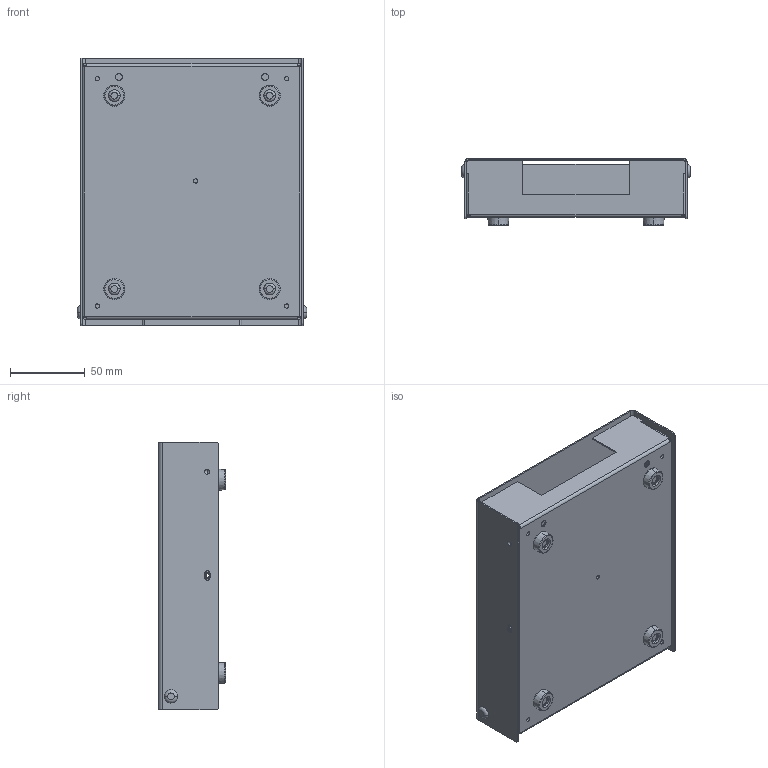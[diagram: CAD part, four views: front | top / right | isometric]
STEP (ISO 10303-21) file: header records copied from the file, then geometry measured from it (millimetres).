
FILE_DESCRIPTION((''),'2;1');
FILE_NAME('CD_SCB-100','2008-09-22T',('scarrasc'),(''),'PRO/ENGINEER BY PARAMETRIC TECHNOLOGY CORPORATION, 2006300','PRO/ENGINEER BY PARAMETRIC TECHNOLOGY CORPORATION, 2006300','');
FILE_SCHEMA(('CONFIG_CONTROL_DESIGN'));
Length unit declared in the file: inch
Products named in the file (1): CD_SCB-100
Bounding box: 153.57 x 44.96 x 179.49 mm (x, y, z)
Volume: 113770.7 mm3; surface area: 206024 mm2
Topology: 1 solids, 1 shells, 457 faces, 1094 edges, 684 vertices
Faces by surface type: plane 181, cylinder 180, cone 28, torus 28, sphere 24, bspline 16
Entity records: 14304 total; most frequent: CARTESIAN_POINT 3313, DIRECTION 2442, ORIENTED_EDGE 2148, EDGE_CURVE 1074, AXIS2_PLACEMENT_3D 955, VERTEX_POINT 684, EDGE_LOOP 562, VECTOR 532
